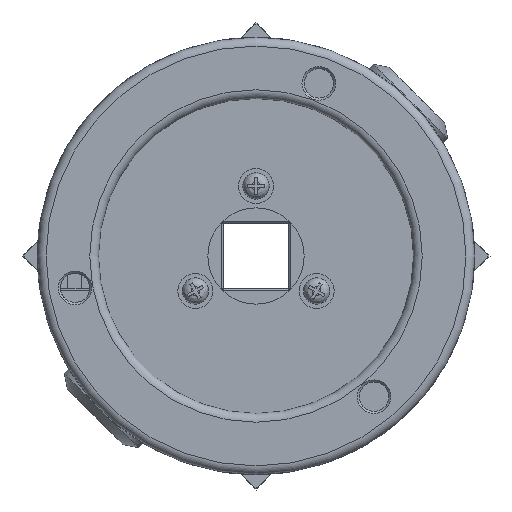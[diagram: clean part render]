
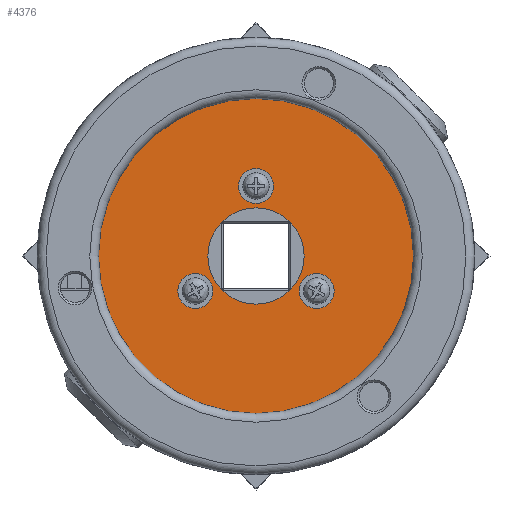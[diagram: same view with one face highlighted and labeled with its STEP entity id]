
A CAD part, front view. The second image highlights one B-rep face of the part: STEP entity #4376.
In plain terms, the highlighted planar face has unit normal (0, -1, 0).
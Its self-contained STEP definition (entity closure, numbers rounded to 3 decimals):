
#75=FACE_BOUND('',#828,.T.);
#76=FACE_BOUND('',#829,.T.);
#77=FACE_BOUND('',#830,.T.);
#78=FACE_BOUND('',#831,.T.);
#198=PLANE('',#4782);
#587=FACE_OUTER_BOUND('',#827,.T.);
#827=EDGE_LOOP('',(#3788));
#828=EDGE_LOOP('',(#3789));
#829=EDGE_LOOP('',(#3790));
#830=EDGE_LOOP('',(#3791));
#831=EDGE_LOOP('',(#3792));
#1817=CIRCLE('',#4566,36.);
#1852=CIRCLE('',#4621,4.);
#1859=CIRCLE('',#4647,4.);
#1898=CIRCLE('',#4757,11.);
#1902=CIRCLE('',#4781,4.);
#1934=VERTEX_POINT('',#6157);
#2019=VERTEX_POINT('',#6461);
#2055=VERTEX_POINT('',#6663);
#2176=VERTEX_POINT('',#7368);
#2181=VERTEX_POINT('',#7414);
#2367=EDGE_CURVE('',#1934,#1934,#1817,.T.);
#2472=EDGE_CURVE('',#2019,#2019,#1852,.T.);
#2526=EDGE_CURVE('',#2055,#2055,#1859,.T.);
#2719=EDGE_CURVE('',#2176,#2176,#1898,.T.);
#2740=EDGE_CURVE('',#2181,#2181,#1902,.T.);
#3788=ORIENTED_EDGE('',*,*,#2367,.F.);
#3789=ORIENTED_EDGE('',*,*,#2472,.T.);
#3790=ORIENTED_EDGE('',*,*,#2526,.T.);
#3791=ORIENTED_EDGE('',*,*,#2740,.T.);
#3792=ORIENTED_EDGE('',*,*,#2719,.F.);
#4376=ADVANCED_FACE('',(#587,#75,#76,#77,#78),#198,.F.);
#4566=AXIS2_PLACEMENT_3D('',#6159,#4971,#4972);
#4621=AXIS2_PLACEMENT_3D('',#6462,#5137,#5138);
#4647=AXIS2_PLACEMENT_3D('',#6664,#5222,#5223);
#4757=AXIS2_PLACEMENT_3D('',#7369,#5556,#5557);
#4781=AXIS2_PLACEMENT_3D('',#7415,#5621,#5622);
#4782=AXIS2_PLACEMENT_3D('',#7417,#5624,#5625);
#4971=DIRECTION('center_axis',(0.,1.,0.));
#4972=DIRECTION('ref_axis',(-1.,0.,0.));
#5137=DIRECTION('center_axis',(0.,1.,0.));
#5138=DIRECTION('ref_axis',(0.5,0.,-0.866));
#5222=DIRECTION('center_axis',(0.,1.,0.));
#5223=DIRECTION('ref_axis',(0.5,0.,0.866));
#5556=DIRECTION('center_axis',(0.,-1.,0.));
#5557=DIRECTION('ref_axis',(1.,0.,0.));
#5621=DIRECTION('center_axis',(0.,1.,0.));
#5622=DIRECTION('ref_axis',(-1.,0.,0.));
#5624=DIRECTION('center_axis',(0.,1.,0.));
#5625=DIRECTION('ref_axis',(0.,0.,1.));
#6157=CARTESIAN_POINT('',(36.,4.,0.));
#6159=CARTESIAN_POINT('Origin',(0.,4.,0.));
#6461=CARTESIAN_POINT('',(-15.856,4.,-4.536));
#6462=CARTESIAN_POINT('Origin',(-13.856,4.,-8.));
#6663=CARTESIAN_POINT('',(11.856,4.,-11.464));
#6664=CARTESIAN_POINT('Origin',(13.856,4.,-8.));
#7368=CARTESIAN_POINT('',(-11.,4.,0.));
#7369=CARTESIAN_POINT('Origin',(0.,4.,0.));
#7414=CARTESIAN_POINT('',(4.,4.,16.));
#7415=CARTESIAN_POINT('Origin',(0.,4.,16.));
#7417=CARTESIAN_POINT('Origin',(0.,4.,0.));
